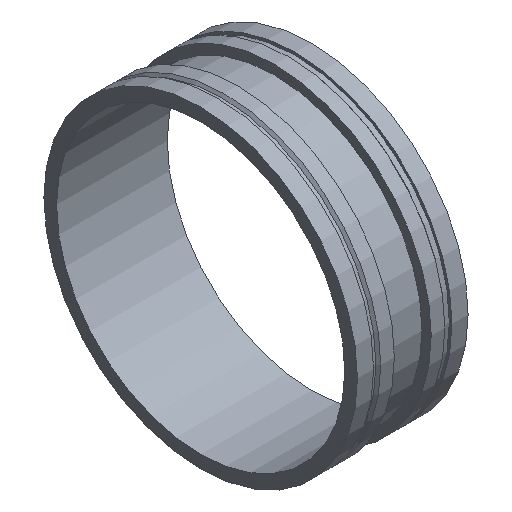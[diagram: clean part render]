
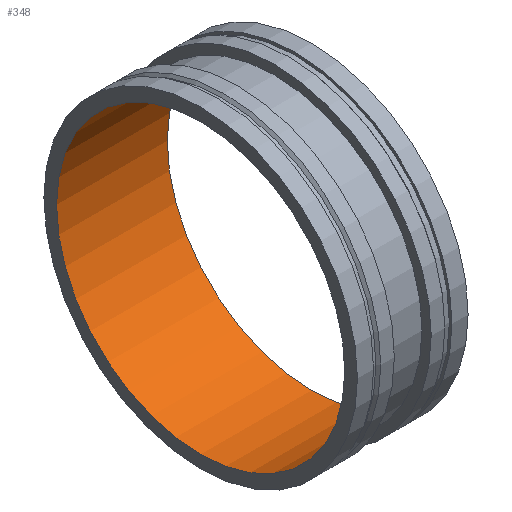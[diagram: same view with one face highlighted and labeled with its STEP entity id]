
A CAD part, isometric view. The second image highlights one B-rep face of the part: STEP entity #348.
In plain terms, the highlighted cylindrical face has radius 396.875 mm (diameter 793.75 mm), a full revolution.
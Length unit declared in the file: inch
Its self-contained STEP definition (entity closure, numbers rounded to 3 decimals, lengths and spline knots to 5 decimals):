
#56=LINE('',#654,#66);
#66=VECTOR('',#537,15.625);
#74=CYLINDRICAL_SURFACE('',#416,15.625);
#96=FACE_OUTER_BOUND('',#118,.T.);
#118=EDGE_LOOP('',(#303,#304,#305,#306,#307,#308));
#121=CIRCLE('',#372,15.625);
#122=CIRCLE('',#373,15.625);
#149=CIRCLE('',#414,15.625);
#150=CIRCLE('',#415,15.625);
#153=VERTEX_POINT('',#570);
#154=VERTEX_POINT('',#571);
#181=VERTEX_POINT('',#649);
#182=VERTEX_POINT('',#650);
#185=EDGE_CURVE('',#153,#154,#121,.T.);
#186=EDGE_CURVE('',#154,#153,#122,.T.);
#222=EDGE_CURVE('',#181,#182,#149,.T.);
#223=EDGE_CURVE('',#182,#181,#150,.T.);
#224=EDGE_CURVE('',#182,#154,#56,.T.);
#303=ORIENTED_EDGE('',*,*,#222,.T.);
#304=ORIENTED_EDGE('',*,*,#224,.T.);
#305=ORIENTED_EDGE('',*,*,#185,.F.);
#306=ORIENTED_EDGE('',*,*,#186,.F.);
#307=ORIENTED_EDGE('',*,*,#224,.F.);
#308=ORIENTED_EDGE('',*,*,#223,.T.);
#348=ADVANCED_FACE('',(#96),#74,.F.);
#372=AXIS2_PLACEMENT_3D('',#572,#438,#439);
#373=AXIS2_PLACEMENT_3D('',#573,#440,#441);
#414=AXIS2_PLACEMENT_3D('',#651,#531,#532);
#415=AXIS2_PLACEMENT_3D('',#652,#533,#534);
#416=AXIS2_PLACEMENT_3D('',#653,#535,#536);
#438=DIRECTION('center_axis',(1.,0.,0.));
#439=DIRECTION('ref_axis',(0.,0.,-1.));
#440=DIRECTION('center_axis',(1.,0.,0.));
#441=DIRECTION('ref_axis',(0.,0.,-1.));
#531=DIRECTION('center_axis',(1.,0.,0.));
#532=DIRECTION('ref_axis',(0.,0.,-1.));
#533=DIRECTION('center_axis',(1.,0.,0.));
#534=DIRECTION('ref_axis',(0.,0.,-1.));
#535=DIRECTION('center_axis',(1.,0.,0.));
#536=DIRECTION('ref_axis',(0.,1.,0.));
#537=DIRECTION('',(-1.,0.,0.));
#570=CARTESIAN_POINT('',(0.,15.625,0.));
#571=CARTESIAN_POINT('',(0.,-15.625,0.));
#572=CARTESIAN_POINT('Origin',(0.,0.,
0.));
#573=CARTESIAN_POINT('Origin',(0.,0.,
0.));
#649=CARTESIAN_POINT('',(12.,15.625,0.));
#650=CARTESIAN_POINT('',(12.,-15.625,0.));
#651=CARTESIAN_POINT('Origin',(12.,0.,0.));
#652=CARTESIAN_POINT('Origin',(12.,0.,0.));
#653=CARTESIAN_POINT('Origin',(6.,0.,0.));
#654=CARTESIAN_POINT('',(6.,-15.625,0.));
